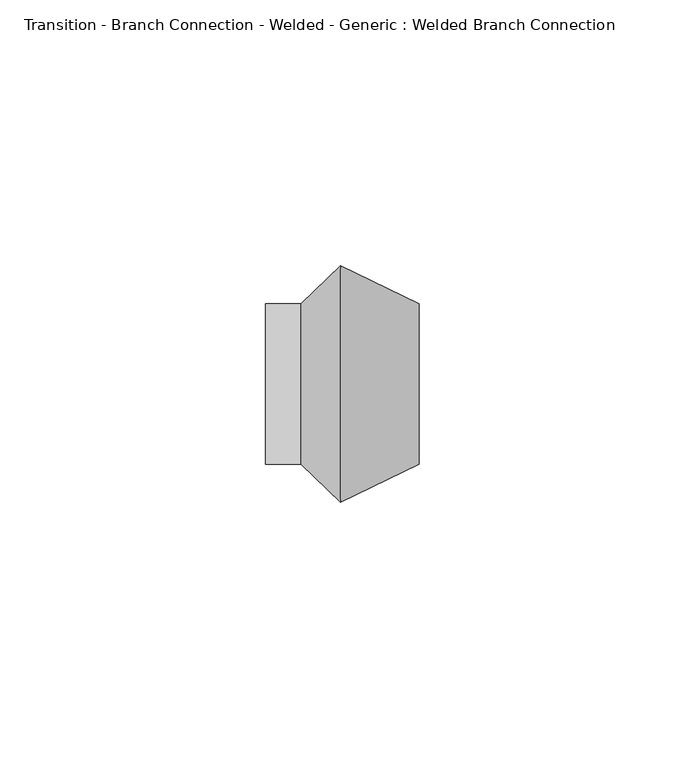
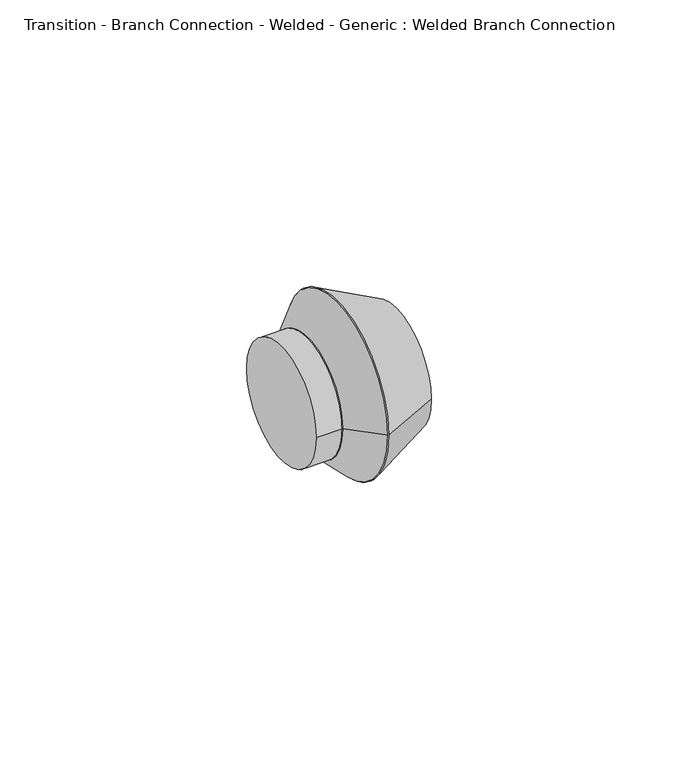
"""IFC4 building model written with IfcOpenShell, lengths in millimetres: pipe fitting geometry, Transition - Branch Connection - Welded - Generic : Welded Branch Connection."""

from ifc_helpers import new_model, si_unit, point, frame, origin, origin_2d, place, context, project, spatial, polyline, circle_curve, trimmed, segment, composite_curve, outline, extrude, source, transform, mapped, element, save
from ifc_brep_helpers import plane_surface, revolved_surface, advanced_brep


def transition_branch_connection_welded_generic_welded_branch_c6be1ef4(model_context):
    return source(origin(), model_context, "Body", "SolidModel", [
        advanced_brep(
        [(7.4083333, -22.225, 0.0), (7.4083333, 22.225, 0.0), (22.225, -15.08125, 0.0), (22.225, 15.08125, 0.0)],
        [
            (0, 1, circle_curve(frame((7.4083333, 0.0, 0.0), z_axis=(-1.0, 0.0, 0.0), x_axis=(0.0, -1.0, 0.0)), 22.225)),
            (1, 0, circle_curve(frame((7.4083333, 0.0, 0.0), z_axis=(-1.0, 0.0, 0.0), x_axis=(0.0, 1.0, 0.0)), 22.225)),
            (2, 3, circle_curve(frame((22.225, 0.0, 0.0), z_axis=(1.0, 0.0, 0.0), x_axis=(0.0, 1.0, 0.0)), 15.08125)),
            (3, 2, circle_curve(frame((22.225, 0.0, 0.0), z_axis=(1.0, 0.0, 0.0), x_axis=(0.0, -1.0, 0.0)), 15.08125)),
            (2, 0),
            (1, 3),
        ],
        [
            plane_surface(frame((7.4083333, 0.0, 0.0), z_axis=(-1.0, 0.0, 0.0), x_axis=(0.0, 0.0, -1.0))),
            plane_surface(frame((22.225, 0.0, 0.0), z_axis=(1.0, 0.0, 0.0), x_axis=(0.0, 0.0, -1.0))),
            revolved_surface(polyline([(22.225000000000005, -15.081249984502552, 0.0), (7.4083333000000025, -22.225, 0.0)]), (53.5046296, 0.0, 0.0), (-1.0, 0.0, 0.0)),
            revolved_surface(polyline([(22.225000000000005, 15.081249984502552, 0.0), (7.4083333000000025, 22.225, 0.0)]), (53.5046296, 0.0, 0.0), (-1.0, 0.0, 0.0)),
        ],
        [
            (0, [[1, 2]]),
            (1, [[3, 4]]),
            (2, [[-3, 5, -2, 6]]),
            (3, [[-4, -6, -1, -5]]),
        ],
    ),
        advanced_brep(
        [(7.4083333, -22.225, 0.0), (7.4083333, 22.225, 0.0), (0.0, -15.08125, 0.0), (0.0, 15.08125, 0.0)],
        [
            (0, 1, circle_curve(frame((7.4083333, 0.0, 0.0), z_axis=(1.0, 0.0, 0.0), x_axis=(0.0, -1.0, 0.0)), 22.225)),
            (1, 0, circle_curve(frame((7.4083333, 0.0, 0.0), z_axis=(1.0, 0.0, 0.0), x_axis=(0.0, 1.0, 0.0)), 22.225)),
            (2, 3, circle_curve(frame((0.0, 0.0, 0.0), z_axis=(-1.0, 0.0, 0.0), x_axis=(0.0, 1.0, 0.0)), 15.08125)),
            (3, 2, circle_curve(frame((0.0, 0.0, 0.0), z_axis=(-1.0, 0.0, 0.0), x_axis=(0.0, -1.0, 0.0)), 15.08125)),
            (3, 1),
            (0, 2),
        ],
        [
            plane_surface(frame((7.4083333, 0.0, 0.0), z_axis=(1.0, 0.0, 0.0), x_axis=(0.0, 0.0, -1.0))),
            plane_surface(frame((0.0, 0.0, 0.0), z_axis=(-1.0, 0.0, 0.0), x_axis=(0.0, 0.0, -1.0))),
            revolved_surface(polyline([(0.0, 15.08125001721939, 0.0), (7.408333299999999, 22.225, 0.0)]), (-15.6398148, 0.0, 0.0), (1.0, 0.0, 0.0)),
            revolved_surface(polyline([(0.0, -15.08125001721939, 0.0), (7.408333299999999, -22.225, 0.0)]), (-15.6398148, 0.0, 0.0), (1.0, 0.0, 0.0)),
        ],
        [
            (0, [[1, 2]]),
            (1, [[3, 4]]),
            (2, [[-4, 5, -1, 6]]),
            (3, [[-3, -6, -2, -5]]),
        ],
    ),
        extrude(outline(composite_curve([segment(trimmed(circle_curve(origin_2d(), 15.08125), [point((-15.08125, 0.0))], [point((15.08125, 0.0))], False, "CARTESIAN"), True, "CONTINUOUS"), segment(trimmed(circle_curve(origin_2d(), 15.08125), [point((15.08125, 0.0))], [point((-15.08125, 0.0))], False, "CARTESIAN"), True, "CONTINUOUS")], self_intersect=False)), frame((-6.6434867, 0.0, 0.0), z_axis=(1.0, 0.0, 0.0), x_axis=(0.0, 1.0, 0.0)), (0.0, 0.0, 1.0), 6.6434867),
    ])


if __name__ == "__main__":
    model = new_model("IFC4")
    model_context = context("Model", 3, world=origin())
    ifc_project = project(units=[si_unit("LENGTHUNIT", "METRE", prefix="MILLI")], contexts=[model_context])
    site = spatial("IfcSite", under=ifc_project)
    building = spatial("IfcBuilding", under=site)
    placement = place(None, origin())
    transition_branch_connection_welded_generic_welded_branch_shape = transition_branch_connection_welded_generic_welded_branch_c6be1ef4(model_context)
    element("IfcPipeFitting", 1, ObjectType="Transition - Branch Connection - Welded - Generic : Welded Branch Connection", at=placement, inside=building, context=model_context, shape_type="MappedRepresentation", body=[
        mapped(transition_branch_connection_welded_generic_welded_branch_shape, transform((0.0, 0.0, 0.0), x_axis=(1.0, 0.0, 0.0), y_axis=(0.0, 1.0, 0.0), z_axis=(0.0, 0.0, 1.0))),
    ])
    save(model, "model.ifc")
